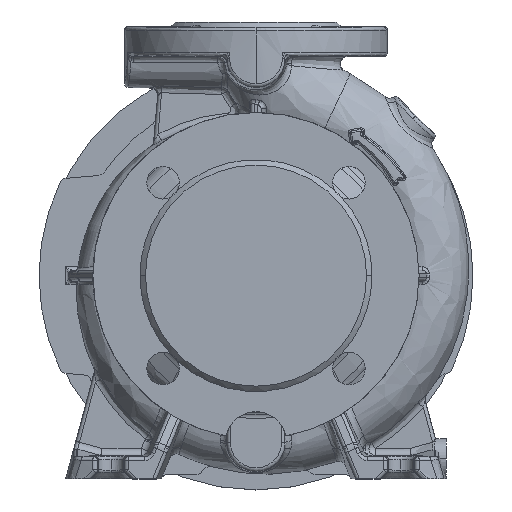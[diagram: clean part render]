
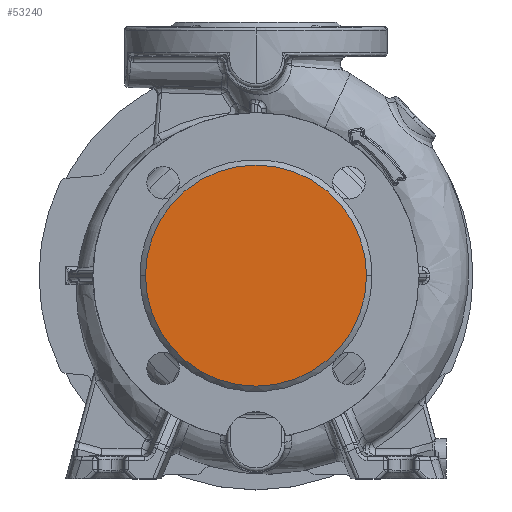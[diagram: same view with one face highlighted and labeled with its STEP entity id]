
A CAD part, top view. The second image highlights one B-rep face of the part: STEP entity #53240.
In plain terms, the highlighted planar face has unit normal (0, 0, 1).
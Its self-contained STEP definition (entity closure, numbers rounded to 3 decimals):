
#1897 = DIRECTION ( 'NONE',  ( 0., 0., 1. ) ) ;
#5989 = CARTESIAN_POINT ( 'NONE',  ( 0., 0., 80. ) ) ;
#6110 = CARTESIAN_POINT ( 'NONE',  ( 0., 0., 80. ) ) ;
#6954 = EDGE_CURVE ( 'NONE', #22919, #50024, #8867, .T. ) ;
#8268 = CIRCLE ( 'NONE', #32848, 61. ) ;
#8867 = CIRCLE ( 'NONE', #50749, 61. ) ;
#15137 = DIRECTION ( 'NONE',  ( 1., 0., 0. ) ) ;
#16607 = DIRECTION ( 'NONE',  ( 0., 0., 1. ) ) ;
#17989 = FACE_OUTER_BOUND ( 'NONE', #32372, .T. ) ;
#20697 = AXIS2_PLACEMENT_3D ( 'NONE', #58433, #16607, #44235 ) ;
#22919 = VERTEX_POINT ( 'NONE', #43746 ) ;
#32372 = EDGE_LOOP ( 'NONE', ( #35215, #54528 ) ) ;
#32848 = AXIS2_PLACEMENT_3D ( 'NONE', #6110, #1897, #15137 ) ;
#35215 = ORIENTED_EDGE ( 'NONE', *, *, #6954, .T. ) ;
#37993 = DIRECTION ( 'NONE',  ( 0., 0., 1. ) ) ;
#43188 = DIRECTION ( 'NONE',  ( 1., 0., 0. ) ) ;
#43603 = EDGE_CURVE ( 'NONE', #50024, #22919, #8268, .T. ) ;
#43746 = CARTESIAN_POINT ( 'NONE',  ( -61., 0., 80. ) ) ;
#44235 = DIRECTION ( 'NONE',  ( 1., 0., 0. ) ) ;
#48868 = PLANE ( 'NONE',  #20697 ) ;
#50024 = VERTEX_POINT ( 'NONE', #56263 ) ;
#50749 = AXIS2_PLACEMENT_3D ( 'NONE', #5989, #37993, #43188 ) ;
#53240 = ADVANCED_FACE ( 'NONE', ( #17989 ), #48868, .T. ) ;
#54528 = ORIENTED_EDGE ( 'NONE', *, *, #43603, .T. ) ;
#56263 = CARTESIAN_POINT ( 'NONE',  ( 61., 0., 80. ) ) ;
#58433 = CARTESIAN_POINT ( 'NONE',  ( 0., 0., 80. ) ) ;
